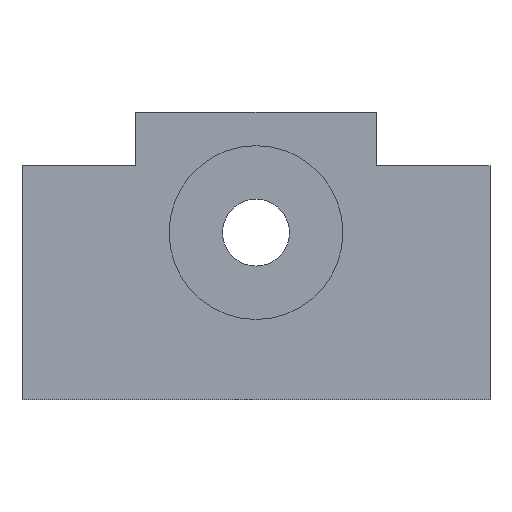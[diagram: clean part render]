
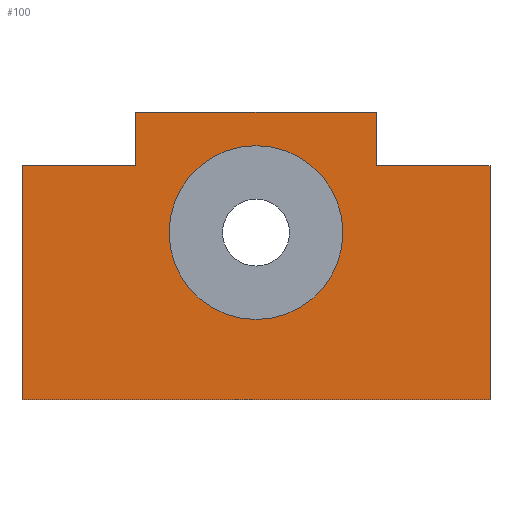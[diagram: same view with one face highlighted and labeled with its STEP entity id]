
A CAD part, left-side view. The second image highlights one B-rep face of the part: STEP entity #100.
In plain terms, the highlighted planar face has unit normal (-1, 0, 0).
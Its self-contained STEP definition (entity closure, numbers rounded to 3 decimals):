
#100=ADVANCED_FACE('',(#155,#156),#117,.F.);
#117=PLANE('',#423);
#129=CIRCLE('',#422,13.);
#155=FACE_BOUND('',#193,.T.);
#156=FACE_BOUND('',#194,.T.);
#193=EDGE_LOOP('',(#262,#263,#264,#265,#266,#267,#268,#269));
#194=EDGE_LOOP('',(#270));
#262=ORIENTED_EDGE('',*,*,#337,.F.);
#263=ORIENTED_EDGE('',*,*,#335,.F.);
#264=ORIENTED_EDGE('',*,*,#332,.F.);
#265=ORIENTED_EDGE('',*,*,#330,.F.);
#266=ORIENTED_EDGE('',*,*,#328,.F.);
#267=ORIENTED_EDGE('',*,*,#326,.F.);
#268=ORIENTED_EDGE('',*,*,#323,.F.);
#269=ORIENTED_EDGE('',*,*,#321,.F.);
#270=ORIENTED_EDGE('',*,*,#344,.T.);
#290=VERTEX_POINT('',#556);
#291=VERTEX_POINT('',#558);
#292=VERTEX_POINT('',#562);
#294=VERTEX_POINT('',#568);
#295=VERTEX_POINT('',#572);
#296=VERTEX_POINT('',#576);
#297=VERTEX_POINT('',#580);
#299=VERTEX_POINT('',#586);
#306=VERTEX_POINT('',#610);
#321=EDGE_CURVE('LINE',#290,#291,#358,.T.);
#323=EDGE_CURVE('LINE',#291,#292,#360,.T.);
#326=EDGE_CURVE('LINE',#292,#294,#362,.T.);
#328=EDGE_CURVE('LINE',#294,#295,#364,.T.);
#330=EDGE_CURVE('LINE',#295,#296,#366,.T.);
#332=EDGE_CURVE('LINE',#296,#297,#368,.T.);
#335=EDGE_CURVE('LINE',#297,#299,#370,.T.);
#337=EDGE_CURVE('LINE',#299,#290,#372,.T.);
#344=EDGE_CURVE('',#306,#306,#129,.T.);
#358=LINE('',#557,#382);
#360=LINE('',#561,#384);
#362=LINE('',#567,#386);
#364=LINE('',#571,#388);
#366=LINE('',#575,#390);
#368=LINE('',#579,#392);
#370=LINE('',#585,#394);
#372=LINE('',#589,#396);
#382=VECTOR('',#450,1.);
#384=VECTOR('',#454,1.);
#386=VECTOR('',#460,1.);
#388=VECTOR('',#464,1.);
#390=VECTOR('',#468,1.);
#392=VECTOR('',#472,1.);
#394=VECTOR('',#478,1.);
#396=VECTOR('',#482,1.);
#422=AXIS2_PLACEMENT_3D('',#609,#509,#510);
#423=AXIS2_PLACEMENT_3D('',#611,#511,#512);
#450=DIRECTION('',(0.,0.,1.));
#454=DIRECTION('',(0.,-1.,0.));
#460=DIRECTION('',(0.,0.,1.));
#464=DIRECTION('',(0.,-1.,0.));
#468=DIRECTION('',(0.,0.,-1.));
#472=DIRECTION('',(0.,-1.,0.));
#478=DIRECTION('',(0.,0.,-1.));
#482=DIRECTION('',(0.,1.,0.));
#509=DIRECTION('',(1.,0.,0.));
#510=DIRECTION('',(0.,0.,-1.));
#511=DIRECTION('',(1.,0.,0.));
#512=DIRECTION('',(0.,-1.,0.));
#556=CARTESIAN_POINT('',(-10.,35.,0.));
#557=CARTESIAN_POINT('',(-10.,35.,17.5));
#558=CARTESIAN_POINT('',(-10.,35.,35.));
#561=CARTESIAN_POINT('',(-10.,26.5,35.));
#562=CARTESIAN_POINT('',(-10.,18.,35.));
#567=CARTESIAN_POINT('',(-10.,18.,39.));
#568=CARTESIAN_POINT('',(-10.,18.,43.));
#571=CARTESIAN_POINT('',(-10.,0.,43.));
#572=CARTESIAN_POINT('',(-10.,-18.,43.));
#575=CARTESIAN_POINT('',(-10.,-18.,39.));
#576=CARTESIAN_POINT('',(-10.,-18.,35.));
#579=CARTESIAN_POINT('',(-10.,-26.5,35.));
#580=CARTESIAN_POINT('',(-10.,-35.,35.));
#585=CARTESIAN_POINT('',(-10.,-35.,17.5));
#586=CARTESIAN_POINT('',(-10.,-35.,0.));
#589=CARTESIAN_POINT('',(-10.,0.,0.));
#609=CARTESIAN_POINT('',(-10.,0.,25.));
#610=CARTESIAN_POINT('',(-10.,0.,12.));
#611=CARTESIAN_POINT('',(-10.,0.,0.));
